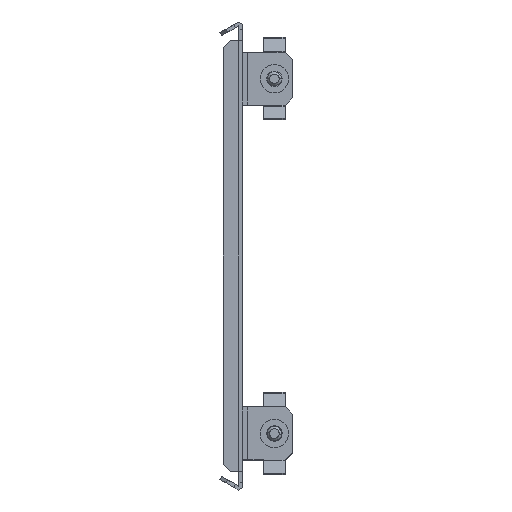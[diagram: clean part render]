
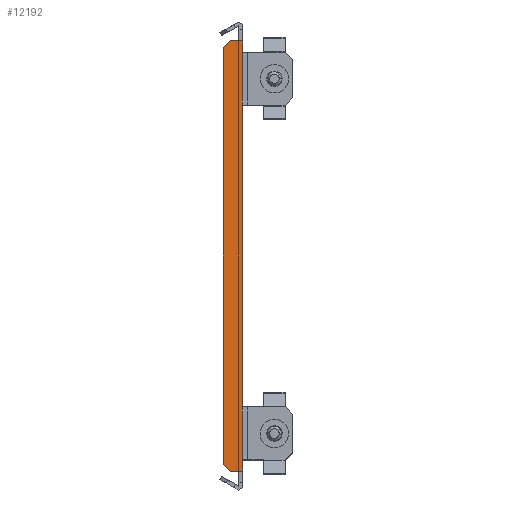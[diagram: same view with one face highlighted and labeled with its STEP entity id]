
A CAD part, front view. The second image highlights one B-rep face of the part: STEP entity #12192.
In plain terms, the highlighted planar face has unit normal (0, -1, 0).
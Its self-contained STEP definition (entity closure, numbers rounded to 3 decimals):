
#550 = ORIENTED_EDGE ( 'NONE', *, *, #7315, .T. ) ;
#635 = ORIENTED_EDGE ( 'NONE', *, *, #3754, .T. ) ;
#1149 = VECTOR ( 'NONE', #2288, 1000. ) ;
#1506 = PLANE ( 'NONE',  #10863 ) ;
#1517 = LINE ( 'NONE', #18399, #16430 ) ;
#1654 = ORIENTED_EDGE ( 'NONE', *, *, #9544, .T. ) ;
#2288 = DIRECTION ( 'NONE',  ( 0., 0., 1. ) ) ;
#2859 = DIRECTION ( 'NONE',  ( 0., 1., 0. ) ) ;
#3582 = CARTESIAN_POINT ( 'NONE',  ( -5.214, -354.461, -89.961 ) ) ;
#3754 = EDGE_CURVE ( 'NONE', #20960, #21557, #20338, .T. ) ;
#4593 = VERTEX_POINT ( 'NONE', #20556 ) ;
#4871 = VECTOR ( 'NONE', #6387, 1000. ) ;
#5351 = VECTOR ( 'NONE', #16454, 1000. ) ;
#5359 = VECTOR ( 'NONE', #21189, 1000. ) ;
#5365 = EDGE_CURVE ( 'NONE', #14777, #13786, #18814, .T. ) ;
#6223 = ORIENTED_EDGE ( 'NONE', *, *, #23497, .T. ) ;
#6387 = DIRECTION ( 'NONE',  ( -0.707, 0., -0.707 ) ) ;
#6428 = CARTESIAN_POINT ( 'NONE',  ( -5.214, -354.461, -62.814 ) ) ;
#6524 = CARTESIAN_POINT ( 'NONE',  ( -5.214, -354.461, 0.936 ) ) ;
#6634 = LINE ( 'NONE', #14718, #4871 ) ;
#6962 = VERTEX_POINT ( 'NONE', #8123 ) ;
#7315 = EDGE_CURVE ( 'NONE', #14367, #20960, #14345, .T. ) ;
#7325 = VECTOR ( 'NONE', #16266, 1000. ) ;
#8123 = CARTESIAN_POINT ( 'NONE',  ( -10.214, -354.461, 91.833 ) ) ;
#8189 = ORIENTED_EDGE ( 'NONE', *, *, #16755, .T. ) ;
#8640 = ORIENTED_EDGE ( 'NONE', *, *, #21778, .F. ) ;
#9087 = CARTESIAN_POINT ( 'NONE',  ( -5.214, -354.461, -85.158 ) ) ;
#9219 = CARTESIAN_POINT ( 'NONE',  ( -5.214, -354.461, 0.936 ) ) ;
#9384 = DIRECTION ( 'NONE',  ( 0., 0., 1. ) ) ;
#9544 = EDGE_CURVE ( 'NONE', #6962, #21696, #6634, .T. ) ;
#9572 = EDGE_CURVE ( 'NONE', #21557, #14777, #15737, .T. ) ;
#9617 = CARTESIAN_POINT ( 'NONE',  ( -5.214, -354.461, -89.961 ) ) ;
#10357 = ORIENTED_EDGE ( 'NONE', *, *, #12024, .T. ) ;
#10454 = CARTESIAN_POINT ( 'NONE',  ( -13.214, -354.461, 88.833 ) ) ;
#10767 = DIRECTION ( 'NONE',  ( 0., 0., 1. ) ) ;
#10863 = AXIS2_PLACEMENT_3D ( 'NONE', #6524, #2859, #12278 ) ;
#11058 = DIRECTION ( 'NONE',  ( 1., 0., 0. ) ) ;
#11090 = LINE ( 'NONE', #18656, #16013 ) ;
#11197 = VERTEX_POINT ( 'NONE', #18116 ) ;
#12024 = EDGE_CURVE ( 'NONE', #21696, #14367, #23162, .T. ) ;
#12192 = ADVANCED_FACE ( 'NONE', ( #18266 ), #1506, .F. ) ;
#12278 = DIRECTION ( 'NONE',  ( 1., 0., 0. ) ) ;
#12960 = CARTESIAN_POINT ( 'NONE',  ( -10.214, -354.461, -89.961 ) ) ;
#13322 = EDGE_LOOP ( 'NONE', ( #635, #17301, #20736, #8189, #22850, #6223, #8640, #1654, #10357, #550 ) ) ;
#13781 = CARTESIAN_POINT ( 'NONE',  ( -13.214, -354.461, 0.936 ) ) ;
#13786 = VERTEX_POINT ( 'NONE', #6428 ) ;
#14227 = DIRECTION ( 'NONE',  ( 0.707, 0., -0.707 ) ) ;
#14345 = LINE ( 'NONE', #17883, #22703 ) ;
#14367 = VERTEX_POINT ( 'NONE', #21920 ) ;
#14459 = CARTESIAN_POINT ( 'NONE',  ( -5.214, -354.461, 64.686 ) ) ;
#14718 = CARTESIAN_POINT ( 'NONE',  ( -53.162, -354.461, 48.885 ) ) ;
#14767 = DIRECTION ( 'NONE',  ( 1., 0., 0. ) ) ;
#14777 = VERTEX_POINT ( 'NONE', #9087 ) ;
#14973 = LINE ( 'NONE', #9219, #5351 ) ;
#15537 = CARTESIAN_POINT ( 'NONE',  ( -5.214, -354.461, 0.936 ) ) ;
#15737 = LINE ( 'NONE', #22002, #20866 ) ;
#16013 = VECTOR ( 'NONE', #9384, 1000. ) ;
#16147 = LINE ( 'NONE', #18762, #7325 ) ;
#16266 = DIRECTION ( 'NONE',  ( 0., 0., 1. ) ) ;
#16332 = VERTEX_POINT ( 'NONE', #14459 ) ;
#16430 = VECTOR ( 'NONE', #14767, 1000. ) ;
#16454 = DIRECTION ( 'NONE',  ( 0., 0., 1. ) ) ;
#16755 = EDGE_CURVE ( 'NONE', #13786, #16332, #16147, .T. ) ;
#17301 = ORIENTED_EDGE ( 'NONE', *, *, #9572, .T. ) ;
#17883 = CARTESIAN_POINT ( 'NONE',  ( -53.162, -354.461, -47.012 ) ) ;
#18116 = CARTESIAN_POINT ( 'NONE',  ( -5.214, -354.461, 87.031 ) ) ;
#18266 = FACE_OUTER_BOUND ( 'NONE', #13322, .T. ) ;
#18399 = CARTESIAN_POINT ( 'NONE',  ( -5.214, -354.461, 91.833 ) ) ;
#18656 = CARTESIAN_POINT ( 'NONE',  ( -5.214, -354.461, 0.936 ) ) ;
#18762 = CARTESIAN_POINT ( 'NONE',  ( -5.214, -354.461, 0.936 ) ) ;
#18814 = LINE ( 'NONE', #15537, #1149 ) ;
#20196 = VECTOR ( 'NONE', #11058, 1000. ) ;
#20338 = LINE ( 'NONE', #3582, #20196 ) ;
#20456 = EDGE_CURVE ( 'NONE', #16332, #11197, #11090, .T. ) ;
#20556 = CARTESIAN_POINT ( 'NONE',  ( -5.214, -354.461, 91.833 ) ) ;
#20736 = ORIENTED_EDGE ( 'NONE', *, *, #5365, .T. ) ;
#20866 = VECTOR ( 'NONE', #10767, 1000. ) ;
#20960 = VERTEX_POINT ( 'NONE', #12960 ) ;
#21189 = DIRECTION ( 'NONE',  ( 0., 0., -1. ) ) ;
#21557 = VERTEX_POINT ( 'NONE', #9617 ) ;
#21696 = VERTEX_POINT ( 'NONE', #10454 ) ;
#21778 = EDGE_CURVE ( 'NONE', #6962, #4593, #1517, .T. ) ;
#21920 = CARTESIAN_POINT ( 'NONE',  ( -13.214, -354.461, -86.961 ) ) ;
#22002 = CARTESIAN_POINT ( 'NONE',  ( -5.214, -354.461, 0.936 ) ) ;
#22703 = VECTOR ( 'NONE', #14227, 1000. ) ;
#22850 = ORIENTED_EDGE ( 'NONE', *, *, #20456, .T. ) ;
#23162 = LINE ( 'NONE', #13781, #5359 ) ;
#23497 = EDGE_CURVE ( 'NONE', #11197, #4593, #14973, .T. ) ;
